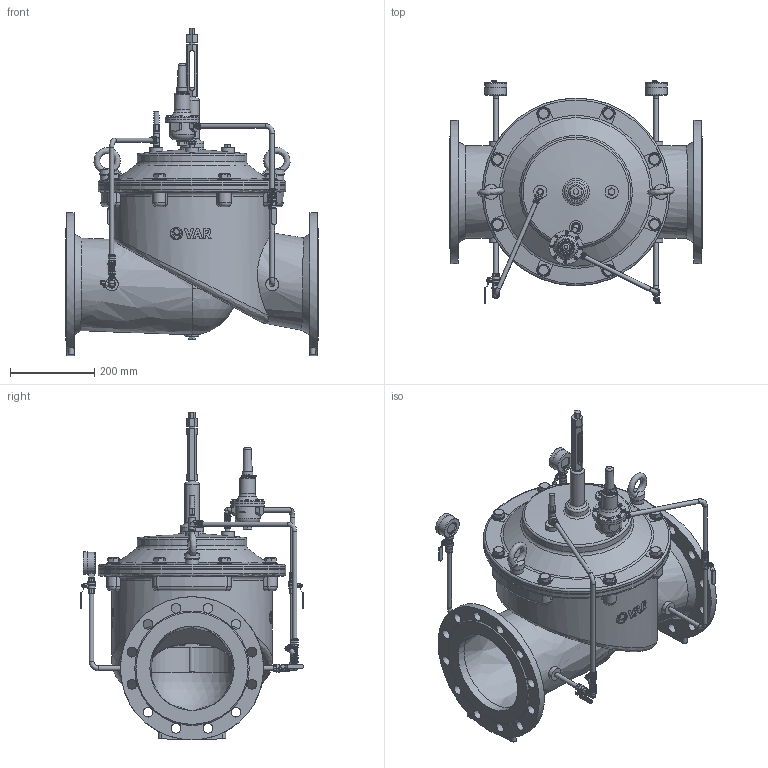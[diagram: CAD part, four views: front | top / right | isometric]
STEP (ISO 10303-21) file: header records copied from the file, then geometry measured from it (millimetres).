
FILE_DESCRIPTION(('STEP AP242'), '1');
FILE_NAME('PICO C200', '', ('UNSPECIFIED'), ('UNSPECIFIED'), 'C3D Converter', 'C3D Toolkit', '');
FILE_SCHEMA(('AP242_MANAGED_MODEL_BASED_3D_ENGINEERING_MIM_LF { 1 0 10303 442 1 1 4 }'));
Length unit declared in the file: millimetre
Products named in the file (26): М; ВР.752218.002
Assembly tree (61 placements, depth 3):
  (unnamed)
    (unnamed)
    (unnamed)
    (unnamed)
    (unnamed)
    (unnamed)
    (unnamed)
    (unnamed)
    М  x2
    (unnamed)
    (unnamed)  x4
    ВР.752218.002  x2
    (unnamed)  x6
    (unnamed)
    (unnamed)  x4
    (unnamed)
    (unnamed)
      (unnamed)
      (unnamed)
      (unnamed)  x8
      (unnamed)
    (unnamed)
    (unnamed)  x2
    (unnamed)  x2
    (unnamed)  x8
    (unnamed)  x8
Bounding box: 600 x 530 x 778 mm (x, y, z)
Volume: 16331560.8 mm3; surface area: 3162903.2 mm2
Topology: 67 solids, 69 shells, 2892 faces, 7279 edges, 4770 vertices
Faces by surface type: plane 1592, cylinder 630, cone 313, extrusion 151, torus 109, bspline 86, sphere 11
Full cylindrical faces by diameter (mm): 0.518 x2, 1.2 x1, 2.5 x2, 3 x8, 4 x25, 4.2 x4, 4.5 x4, 5 x2, 6 x8, 7 x8, 8 x5, 8.7 x1, 9 x16, 9.3 x6, 9.5 x2, 10 x4, 10.2 x4, 10.8 x2, 11 x18, 11.16 x4, 11.179 x6, 11.22 x4, 11.4 x2, 11.577 x2, 12 x1, 12.5 x3, 12.573 x15, 13.157 x2, 13.8 x4, 14 x9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
Entity records: 116321 total; most frequent: CARTESIAN_POINT 66141, ORIENTED_EDGE 7978, DIRECTION 7244, EDGE_CURVE 3989, VERTEX_POINT 2856, AXIS2_PLACEMENT_3D 2663, EDGE_LOOP 2467, FACE_BOUND 1937
